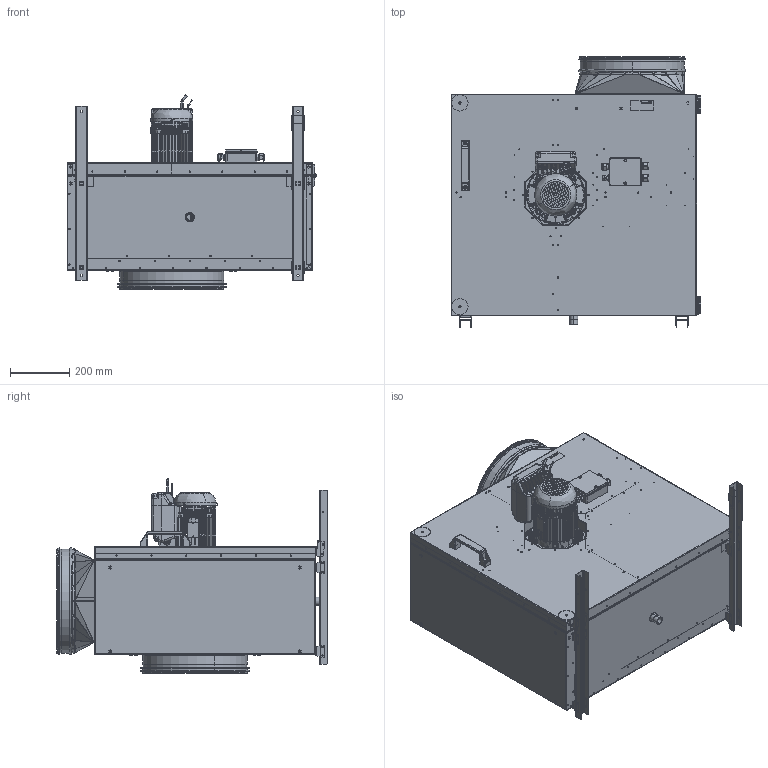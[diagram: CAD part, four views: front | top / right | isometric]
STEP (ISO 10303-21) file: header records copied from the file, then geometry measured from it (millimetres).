
FILE_DESCRIPTION (( 'STEP AP203' ), '1' );
FILE_NAME ('149318-00_MPS400EC30_step.step', '2018-10-24T10:37:13', ( '' ), ( '' ), 'SwSTEP 2.0', 'SolidWorks 2017', '' );
FILE_SCHEMA (( 'CONFIG_CONTROL_DESIGN' ));
Products named in the file (1): 149318-00_MPS400EC30_step
Bounding box: 846.85 x 916.48 x 658.15 mm (x, y, z)
Surface area: 9950744.8 mm2 (no closed solid volume)
Topology: 0 solids, 288 shells, 2941 faces, 13357 edges, 10307 vertices
Faces by surface type: plane 1174, cylinder 1116, bspline 362, cone 177, torus 112
Entity records: 162464 total; most frequent: CARTESIAN_POINT 59919, DIRECTION 20394, ORIENTED_EDGE 17990, EDGE_CURVE 13343, VERTEX_POINT 10307, AXIS2_PLACEMENT_3D 7052, LINE 6290, VECTOR 6290
